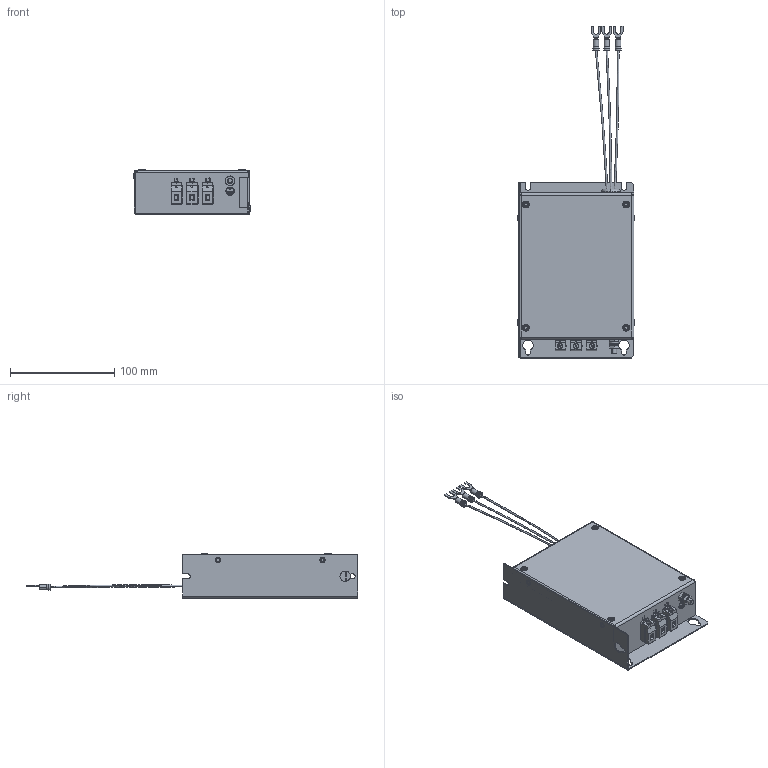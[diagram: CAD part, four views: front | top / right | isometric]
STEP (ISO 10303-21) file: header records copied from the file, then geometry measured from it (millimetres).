
FILE_DESCRIPTION (( 'STEP AP214' ), '1' );
FILE_NAME ('EFR-EFF-3B-15A.STEP', '2026-01-14T10:06:52', ( '' ), ( '' ), 'SwSTEP 2.0', 'SolidWorks 2025', '' );
FILE_SCHEMA (( 'AUTOMOTIVE_DESIGN' ));
Length unit declared in the file: millimetre
Products named in the file (16): FH4-M4-8.stp; ISO 7092 - ST 5 - 140 HV_1.stp; ISO 7045 - M5 x 16 - 4.8 - Z_1.stp; 1000-505.Harness1_1.stp; EFR-EFF-3B-15A; MPT410_2.stp; BS 4464 - 5.35_2.stp; IFI 505 - 42, FHSBMBR_2.stp.SLDPRT; 1000-505.Harness1.stp; 1000-505_1.stp; 1000-505 L.stp; ID12.7_1.stp; 1_1.stp.SLDPRT; 3B_update_10JN26.stp; ISO 4036 - M5_2.stp.SLDPRT; #8 Terminal Spade 16 - 14 AWG_1.stp
Assembly tree (27 placements, depth 4):
  EFR-EFF-3B-15A
    3B_update_10JN26.stp
      1000-505.Harness1.stp
        1000-505.Harness1_1.stp
      1000-505_1.stp
      1000-505 L.stp
      MPT410_2.stp  x3
      1_1.stp.SLDPRT  x4
      ISO 7045 - M5 x 16 - 4.8 - Z_1.stp
      ISO 4036 - M5_2.stp.SLDPRT  x2
      ISO 7092 - ST 5 - 140 HV_1.stp  x2
      BS 4464 - 5.35_2.stp
      ID12.7_1.stp
      IFI 505 - 42, FHSBMBR_2.stp.SLDPRT  x4
      #8 Terminal Spade 16 - 14 AWG_1.stp  x3
      FH4-M4-8.stp
Bounding box: 111.42 x 318 x 42.46 mm (x, y, z)
Volume: 67880.4 mm3; surface area: 128923.6 mm2
Topology: 27 solids, 58 shells, 1934 faces, 5034 edges, 3257 vertices
Faces by surface type: plane 1414, cylinder 294, cone 119, bspline 69, torus 36, sphere 2
Full cylindrical faces by diameter (mm): 4.8 x4
Entity records: 29277 total; most frequent: CARTESIAN_POINT 7502, ORIENTED_EDGE 4642, DIRECTION 4071, EDGE_CURVE 2327, VERTEX_POINT 1502, AXIS2_PLACEMENT_3D 1362, LINE 1347, VECTOR 1347
